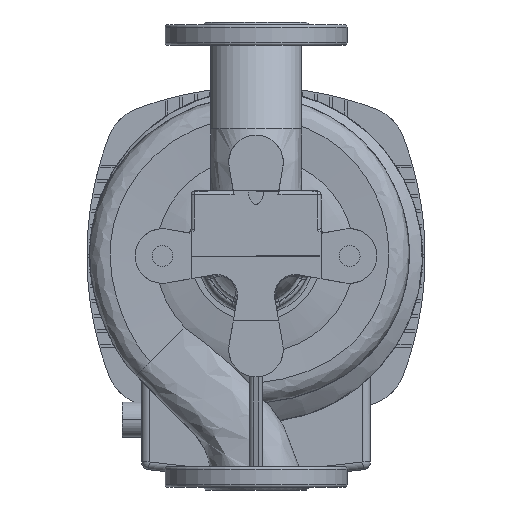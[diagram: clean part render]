
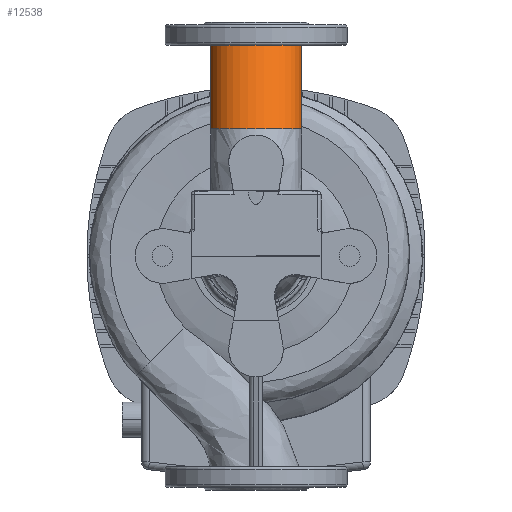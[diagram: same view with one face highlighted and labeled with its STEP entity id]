
A CAD part, front view. The second image highlights one B-rep face of the part: STEP entity #12538.
In plain terms, the highlighted free-form (B-spline) face has degree [3, 1] with [4, 2] control points.
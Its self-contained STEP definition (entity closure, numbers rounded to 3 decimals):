
#872 = ORIENTED_EDGE ( 'NONE', *, *, #24205, .F. ) ;
#901 = CARTESIAN_POINT ( 'NONE',  ( 0., 0., 162. ) ) ;
#1733 = EDGE_CURVE ( 'NONE', #8881, #46355, #19705, .T. ) ;
#3801 = CARTESIAN_POINT ( 'NONE',  ( 35., -44.909, 97.864 ) ) ;
#3909 = CIRCLE ( 'NONE', #17553, 35. ) ;
#4296 = CARTESIAN_POINT ( 'NONE',  ( 35., 0., 162. ) ) ;
#5969 = EDGE_CURVE ( 'NONE', #38095, #39311, #13013, .T. ) ;
#6969 = CARTESIAN_POINT ( 'NONE',  ( 35., -44.909, 97.864 ) ) ;
#7089 = CARTESIAN_POINT ( 'NONE',  ( 0., -44.909, 97.864 ) ) ;
#8119 = ORIENTED_EDGE ( 'NONE', *, *, #41007, .T. ) ;
#8562 = CARTESIAN_POINT ( 'NONE',  ( 35., -70., 162. ) ) ;
#8881 = VERTEX_POINT ( 'NONE', #6969 ) ;
#9956 = EDGE_LOOP ( 'NONE', ( #872, #45958, #8119, #22444 ) ) ;
#11878 = DIRECTION ( 'NONE',  ( -1., 0., 0. ) ) ;
#12538 = ADVANCED_FACE ( 'NONE', ( #40910 ), #30065, .F. ) ;
#13013 = B_SPLINE_CURVE_WITH_KNOTS ( 'NONE', 1,
 ( #52067, #16227 ),
 .UNSPECIFIED., .F., .F.,
 ( 2, 2 ),
 ( 0., 1. ),
 .UNSPECIFIED. ) ;
#13303 = CIRCLE ( 'NONE', #48321, 35. ) ;
#16227 = CARTESIAN_POINT ( 'NONE',  ( -35., 0., 162. ) ) ;
#17553 = AXIS2_PLACEMENT_3D ( 'NONE', #7089, #40478, #11878 ) ;
#19705 = B_SPLINE_CURVE_WITH_KNOTS ( 'NONE', 1,
 ( #3801, #44164 ),
 .UNSPECIFIED., .F., .F.,
 ( 2, 2 ),
 ( 0., 1. ),
 .UNSPECIFIED. ) ;
#21377 = CARTESIAN_POINT ( 'NONE',  ( -35., -44.909, 97.864 ) ) ;
#22444 = ORIENTED_EDGE ( 'NONE', *, *, #5969, .F. ) ;
#24205 = EDGE_CURVE ( 'NONE', #8881, #38095, #3909, .T. ) ;
#24854 = CARTESIAN_POINT ( 'NONE',  ( -35., -114.909, 97.864 ) ) ;
#25137 = CARTESIAN_POINT ( 'NONE',  ( -35., 0., 162. ) ) ;
#25413 = CARTESIAN_POINT ( 'NONE',  ( -35., -70., 162. ) ) ;
#30046 = CARTESIAN_POINT ( 'NONE',  ( -35., -44.909, 97.864 ) ) ;
#30065 =( BOUNDED_SURFACE ( )  B_SPLINE_SURFACE ( 3, 1, ( 
 ( #37175, #4296 ),
 ( #33411, #8562 ),
 ( #24854, #25413 ),
 ( #21377, #34473 ) ),
 .UNSPECIFIED., .F., .F., .T. ) 
 B_SPLINE_SURFACE_WITH_KNOTS ( ( 4, 4 ),
 ( 2, 2 ),
 ( 0.5, 1. ),
 ( 0., 1. ),
 .UNSPECIFIED. ) 
 GEOMETRIC_REPRESENTATION_ITEM ( )  RATIONAL_B_SPLINE_SURFACE ( (
 ( 1., 1.),
 ( 0.333, 0.333),
 ( 0.333, 0.333),
 ( 1., 1.) ) ) 
 REPRESENTATION_ITEM ( '' )  SURFACE ( )  );
#33411 = CARTESIAN_POINT ( 'NONE',  ( 35., -114.909, 97.864 ) ) ;
#33779 = DIRECTION ( 'NONE',  ( -1., 0., 0. ) ) ;
#34473 = CARTESIAN_POINT ( 'NONE',  ( -35., 0., 162. ) ) ;
#37175 = CARTESIAN_POINT ( 'NONE',  ( 35., -44.909, 97.864 ) ) ;
#38095 = VERTEX_POINT ( 'NONE', #30046 ) ;
#39311 = VERTEX_POINT ( 'NONE', #25137 ) ;
#40478 = DIRECTION ( 'NONE',  ( 0., 0., -1. ) ) ;
#40910 = FACE_OUTER_BOUND ( 'NONE', #9956, .T. ) ;
#41007 = EDGE_CURVE ( 'NONE', #46355, #39311, #13303, .T. ) ;
#44099 = CARTESIAN_POINT ( 'NONE',  ( 35., 0., 162. ) ) ;
#44164 = CARTESIAN_POINT ( 'NONE',  ( 35., 0., 162. ) ) ;
#45958 = ORIENTED_EDGE ( 'NONE', *, *, #1733, .T. ) ;
#46355 = VERTEX_POINT ( 'NONE', #44099 ) ;
#48321 = AXIS2_PLACEMENT_3D ( 'NONE', #901, #49537, #33779 ) ;
#49537 = DIRECTION ( 'NONE',  ( 0., 0., -1. ) ) ;
#52067 = CARTESIAN_POINT ( 'NONE',  ( -35., -44.909, 97.864 ) ) ;
